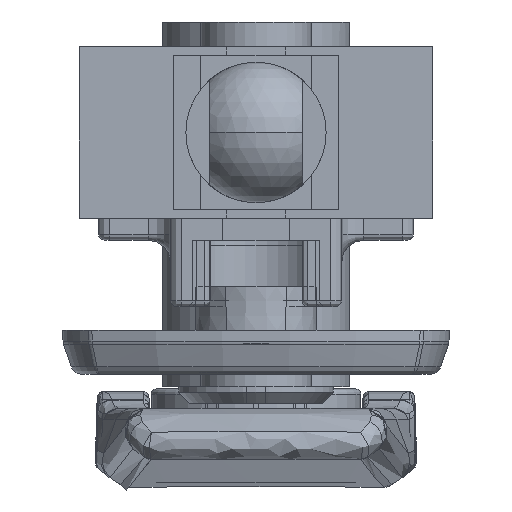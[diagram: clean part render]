
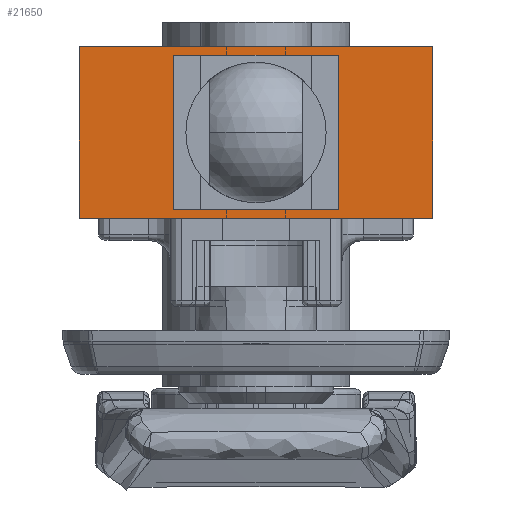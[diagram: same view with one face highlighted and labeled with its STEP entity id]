
A CAD part, front view. The second image highlights one B-rep face of the part: STEP entity #21650.
In plain terms, the highlighted planar face has unit normal (0, -1, 0).
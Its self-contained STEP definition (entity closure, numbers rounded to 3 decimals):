
#443 = VERTEX_POINT ( 'NONE', #18307 ) ;
#1508 = DIRECTION ( 'NONE',  ( 1., 0., 0. ) ) ;
#1650 = EDGE_CURVE ( 'NONE', #15347, #4931, #1850, .T. ) ;
#1774 = VECTOR ( 'NONE', #27401, 1000. ) ;
#1850 = LINE ( 'NONE', #32890, #27280 ) ;
#2805 = CARTESIAN_POINT ( 'NONE',  ( -7., -199.25, -6.25 ) ) ;
#3640 = CARTESIAN_POINT ( 'NONE',  ( 16., -199.25, 7.75 ) ) ;
#3743 = ORIENTED_EDGE ( 'NONE', *, *, #28745, .F. ) ;
#4258 = VECTOR ( 'NONE', #17563, 1000. ) ;
#4931 = VERTEX_POINT ( 'NONE', #24902 ) ;
#5047 = ORIENTED_EDGE ( 'NONE', *, *, #11709, .F. ) ;
#5512 = ORIENTED_EDGE ( 'NONE', *, *, #6405, .F. ) ;
#5826 = DIRECTION ( 'NONE',  ( 0., 0., -1. ) ) ;
#6188 = EDGE_CURVE ( 'NONE', #30093, #32356, #23458, .T. ) ;
#6363 = VECTOR ( 'NONE', #26099, 1000. ) ;
#6405 = EDGE_CURVE ( 'NONE', #13687, #443, #17822, .T. ) ;
#6471 = EDGE_LOOP ( 'NONE', ( #16172, #3743, #20510, #26937 ) ) ;
#6779 = VECTOR ( 'NONE', #5826, 1000. ) ;
#6856 = CARTESIAN_POINT ( 'NONE',  ( -7., -199.25, 6.25 ) ) ;
#8261 = CARTESIAN_POINT ( 'NONE',  ( -16., -199.25, 7.75 ) ) ;
#8777 = LINE ( 'NONE', #29493, #6363 ) ;
#9394 = EDGE_CURVE ( 'NONE', #32233, #15347, #21751, .T. ) ;
#9537 = CARTESIAN_POINT ( 'NONE',  ( 16., -199.25, 7.75 ) ) ;
#9838 = CARTESIAN_POINT ( 'NONE',  ( -16., -199.25, -7.75 ) ) ;
#11709 = EDGE_CURVE ( 'NONE', #30093, #13687, #8777, .T. ) ;
#11987 = CARTESIAN_POINT ( 'NONE',  ( 7., -199.25, 6.25 ) ) ;
#12265 = DIRECTION ( 'NONE',  ( 0., 0., -1. ) ) ;
#13687 = VERTEX_POINT ( 'NONE', #3640 ) ;
#15347 = VERTEX_POINT ( 'NONE', #2805 ) ;
#15351 = LINE ( 'NONE', #28257, #4258 ) ;
#15470 = PLANE ( 'NONE',  #23537 ) ;
#16172 = ORIENTED_EDGE ( 'NONE', *, *, #9394, .F. ) ;
#16667 = DIRECTION ( 'NONE',  ( 0., 0., -1. ) ) ;
#17217 = CARTESIAN_POINT ( 'NONE',  ( -16., -199.25, -7.75 ) ) ;
#17371 = VECTOR ( 'NONE', #30143, 1000. ) ;
#17563 = DIRECTION ( 'NONE',  ( -1., 0., 0. ) ) ;
#17822 = LINE ( 'NONE', #9537, #31226 ) ;
#18177 = FACE_BOUND ( 'NONE', #6471, .T. ) ;
#18307 = CARTESIAN_POINT ( 'NONE',  ( 16., -199.25, -7.75 ) ) ;
#19049 = EDGE_CURVE ( 'NONE', #32356, #443, #29620, .T. ) ;
#19050 = CARTESIAN_POINT ( 'NONE',  ( -7., -199.25, -6.25 ) ) ;
#19437 = VECTOR ( 'NONE', #16667, 1000. ) ;
#19620 = LINE ( 'NONE', #11987, #17371 ) ;
#20223 = FACE_OUTER_BOUND ( 'NONE', #21715, .T. ) ;
#20510 = ORIENTED_EDGE ( 'NONE', *, *, #31862, .F. ) ;
#21650 = ADVANCED_FACE ( 'NONE', ( #18177, #20223 ), #15470, .F. ) ;
#21715 = EDGE_LOOP ( 'NONE', ( #25446, #5512, #5047, #26363 ) ) ;
#21751 = LINE ( 'NONE', #19050, #19437 ) ;
#22760 = DIRECTION ( 'NONE',  ( 0., 0., 1. ) ) ;
#23458 = LINE ( 'NONE', #31761, #6779 ) ;
#23537 = AXIS2_PLACEMENT_3D ( 'NONE', #33288, #25988, #22760 ) ;
#24902 = CARTESIAN_POINT ( 'NONE',  ( 7., -199.25, -6.25 ) ) ;
#25446 = ORIENTED_EDGE ( 'NONE', *, *, #19049, .T. ) ;
#25988 = DIRECTION ( 'NONE',  ( 0., 1., 0. ) ) ;
#26099 = DIRECTION ( 'NONE',  ( 1., 0., 0. ) ) ;
#26363 = ORIENTED_EDGE ( 'NONE', *, *, #6188, .T. ) ;
#26937 = ORIENTED_EDGE ( 'NONE', *, *, #1650, .F. ) ;
#27280 = VECTOR ( 'NONE', #1508, 1000. ) ;
#27401 = DIRECTION ( 'NONE',  ( 1., 0., 0. ) ) ;
#27637 = CARTESIAN_POINT ( 'NONE',  ( 7., -199.25, 6.25 ) ) ;
#28257 = CARTESIAN_POINT ( 'NONE',  ( 7., -199.25, 6.25 ) ) ;
#28745 = EDGE_CURVE ( 'NONE', #29477, #32233, #15351, .T. ) ;
#29477 = VERTEX_POINT ( 'NONE', #27637 ) ;
#29493 = CARTESIAN_POINT ( 'NONE',  ( -16., -199.25, 7.75 ) ) ;
#29620 = LINE ( 'NONE', #17217, #1774 ) ;
#30093 = VERTEX_POINT ( 'NONE', #8261 ) ;
#30143 = DIRECTION ( 'NONE',  ( 0., 0., 1. ) ) ;
#31226 = VECTOR ( 'NONE', #12265, 1000. ) ;
#31761 = CARTESIAN_POINT ( 'NONE',  ( -16., -199.25, 7.75 ) ) ;
#31862 = EDGE_CURVE ( 'NONE', #4931, #29477, #19620, .T. ) ;
#32233 = VERTEX_POINT ( 'NONE', #6856 ) ;
#32356 = VERTEX_POINT ( 'NONE', #9838 ) ;
#32890 = CARTESIAN_POINT ( 'NONE',  ( -7., -199.25, -6.25 ) ) ;
#33288 = CARTESIAN_POINT ( 'NONE',  ( -16., -199.25, 7.75 ) ) ;
